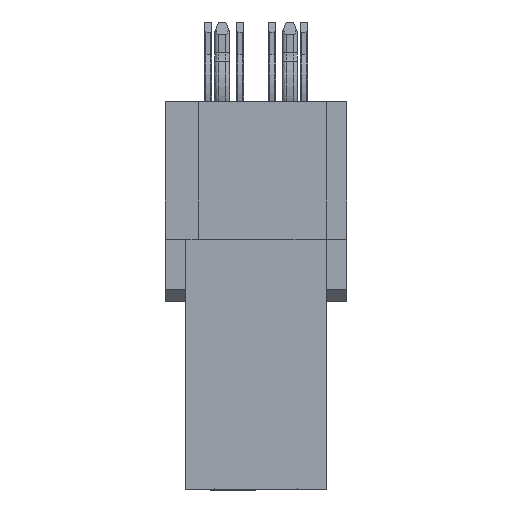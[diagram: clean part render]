
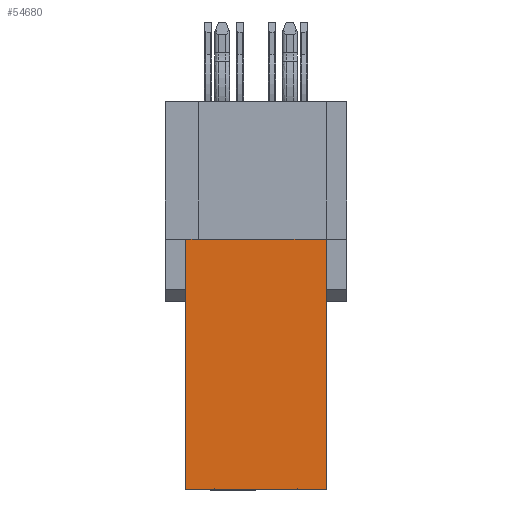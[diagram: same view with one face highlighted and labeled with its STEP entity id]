
A CAD part, left-side view. The second image highlights one B-rep face of the part: STEP entity #54680.
In plain terms, the highlighted planar face has unit normal (-1, 0, 0).
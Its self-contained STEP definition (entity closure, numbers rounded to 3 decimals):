
#20531 = LINE ( 'NONE', #20532, #46551 ) ;
#20532 = CARTESIAN_POINT ( 'NONE',  ( -105.48, 18.765, -9.745 ) ) ;
#20533 = DIRECTION ( 'NONE',  ( 0., 1., 0. ) ) ;
#21871 = LINE ( 'NONE', #21872, #46051 ) ;
#21872 = CARTESIAN_POINT ( 'NONE',  ( -105.48, 18.765, 0.245 ) ) ;
#21873 = DIRECTION ( 'NONE',  ( 0., -1., 0. ) ) ;
#21983 = LINE ( 'NONE', #21984, #46235 ) ;
#21984 = CARTESIAN_POINT ( 'NONE',  ( -105.48, 13.165, 5.745 ) ) ;
#21985 = DIRECTION ( 'NONE',  ( 0., 0., 1. ) ) ;
#27351 = LINE ( 'NONE', #27352, #46076 ) ;
#27352 = CARTESIAN_POINT ( 'NONE',  ( -105.48, 18.765, 0.255 ) ) ;
#27353 = DIRECTION ( 'NONE',  ( 0., -1., 0. ) ) ;
#29312 = VECTOR ( 'NONE', #38618, 1000. ) ;
#30423 = CARTESIAN_POINT ( 'NONE',  ( -105.48, 18.265, 5.745 ) ) ;
#30428 = LINE ( 'NONE', #30423, #111522 ) ;
#30435 = DIRECTION ( 'NONE',  ( 0., 0., 1. ) ) ;
#31966 = CARTESIAN_POINT ( 'NONE',  ( -105.48, 18.765, 5.745 ) ) ;
#31993 = FACE_OUTER_BOUND ( 'NONE', #58304, .T. ) ;
#31996 = PLANE ( 'NONE',  #111302 ) ;
#31998 = DIRECTION ( 'NONE',  ( 1., 0., 0. ) ) ;
#32001 = DIRECTION ( 'NONE',  ( 0., 0., -1. ) ) ;
#38593 = LINE ( 'NONE', #38616, #29312 ) ;
#38616 = CARTESIAN_POINT ( 'NONE',  ( -105.48, 18.765, 5.745 ) ) ;
#38618 = DIRECTION ( 'NONE',  ( 0., 0., 1. ) ) ;
#40032 = CARTESIAN_POINT ( 'NONE',  ( -105.48, 13.165, -9.745 ) ) ;
#40367 = CARTESIAN_POINT ( 'NONE',  ( -105.48, 18.265, 0.245 ) ) ;
#40402 = CARTESIAN_POINT ( 'NONE',  ( -105.48, 18.265, 0.255 ) ) ;
#40582 = CARTESIAN_POINT ( 'NONE',  ( -105.48, 18.765, -9.745 ) ) ;
#41215 = CARTESIAN_POINT ( 'NONE',  ( -105.48, 18.765, 0.245 ) ) ;
#41232 = CARTESIAN_POINT ( 'NONE',  ( -105.48, 13.165, 0.255 ) ) ;
#46051 = VECTOR ( 'NONE', #21873, 1000. ) ;
#46076 = VECTOR ( 'NONE', #27353, 1000. ) ;
#46235 = VECTOR ( 'NONE', #21985, 1000. ) ;
#46551 = VECTOR ( 'NONE', #20533, 1000. ) ;
#47837 = ORIENTED_EDGE ( 'NONE', *, *, #51392, .T. ) ;
#47840 = ORIENTED_EDGE ( 'NONE', *, *, #51547, .F. ) ;
#47843 = ORIENTED_EDGE ( 'NONE', *, *, #54302, .F. ) ;
#47847 = ORIENTED_EDGE ( 'NONE', *, *, #51374, .F. ) ;
#47851 = ORIENTED_EDGE ( 'NONE', *, *, #109275, .F. ) ;
#47855 = ORIENTED_EDGE ( 'NONE', *, *, #51056, .F. ) ;
#51056 = EDGE_CURVE ( 'NONE', #81919, #83395, #20531, .T. ) ;
#51374 = EDGE_CURVE ( 'NONE', #85080, #82677, #21871, .T. ) ;
#51392 = EDGE_CURVE ( 'NONE', #81919, #85121, #21983, .T. ) ;
#51547 = EDGE_CURVE ( 'NONE', #82778, #85121, #27351, .T. ) ;
#54302 = EDGE_CURVE ( 'NONE', #82677, #82778, #30428, .T. ) ;
#54680 = ADVANCED_FACE ( 'NONE', ( #31993 ), #31996, .F. ) ;
#58304 = EDGE_LOOP ( 'NONE', ( #47837, #47840, #47843, #47847, #47851, #47855 ) ) ;
#81919 = VERTEX_POINT ( 'NONE', #40032 ) ;
#82677 = VERTEX_POINT ( 'NONE', #40367 ) ;
#82778 = VERTEX_POINT ( 'NONE', #40402 ) ;
#83395 = VERTEX_POINT ( 'NONE', #40582 ) ;
#85080 = VERTEX_POINT ( 'NONE', #41215 ) ;
#85121 = VERTEX_POINT ( 'NONE', #41232 ) ;
#109275 = EDGE_CURVE ( 'NONE', #83395, #85080, #38593, .T. ) ;
#111302 = AXIS2_PLACEMENT_3D ( 'NONE', #31966, #31998, #32001 ) ;
#111522 = VECTOR ( 'NONE', #30435, 1000. ) ;
